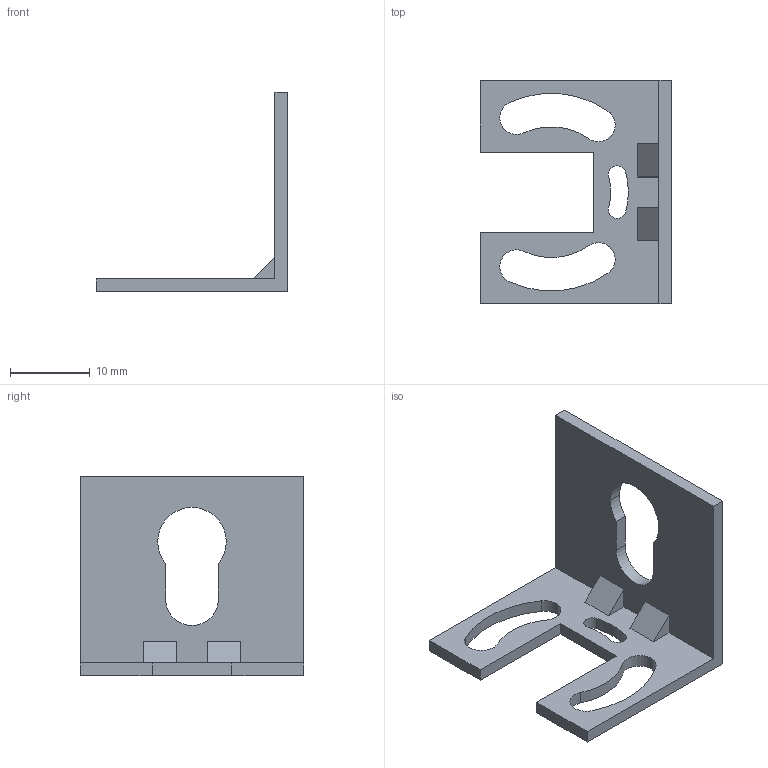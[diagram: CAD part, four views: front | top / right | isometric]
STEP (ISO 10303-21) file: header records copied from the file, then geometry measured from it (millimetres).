
FILE_DESCRIPTION (( 'STEP AP203' ), '1' );
FILE_NAME ('MS-SF2N-5.STEP', '2005-09-05T06:29:28', ( '' ), ( '' ), 'SwSTEP 2.0', 'SolidWorks 2004073', '' );
FILE_SCHEMA (( 'CONFIG_CONTROL_DESIGN' ));
Length unit declared in the file: millimetre
Products named in the file (1): MS-SF2N-5
Bounding box: 24 x 28 x 25 mm (x, y, z)
Volume: 1547.1 mm3; surface area: 2421 mm2
Topology: 1 solids, 1 shells, 46 faces, 132 edges, 88 vertices
Faces by surface type: plane 26, cylinder 20
Entity records: 1609 total; most frequent: CARTESIAN_POINT 267, DIRECTION 266, ORIENTED_EDGE 264, EDGE_CURVE 132, VECTOR 92, LINE 92, VERTEX_POINT 88, AXIS2_PLACEMENT_3D 87
